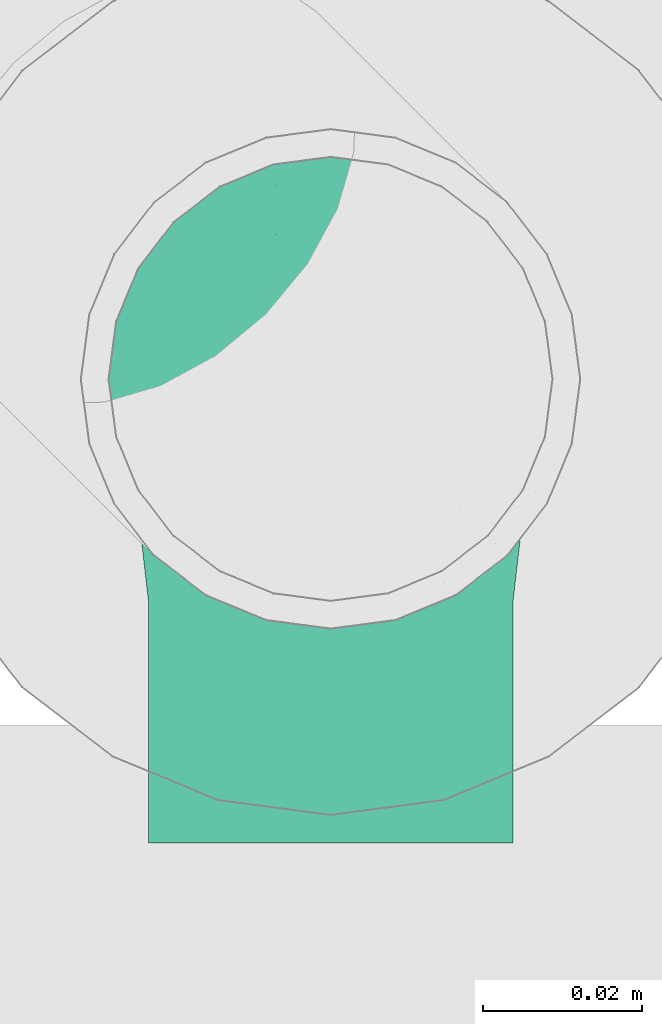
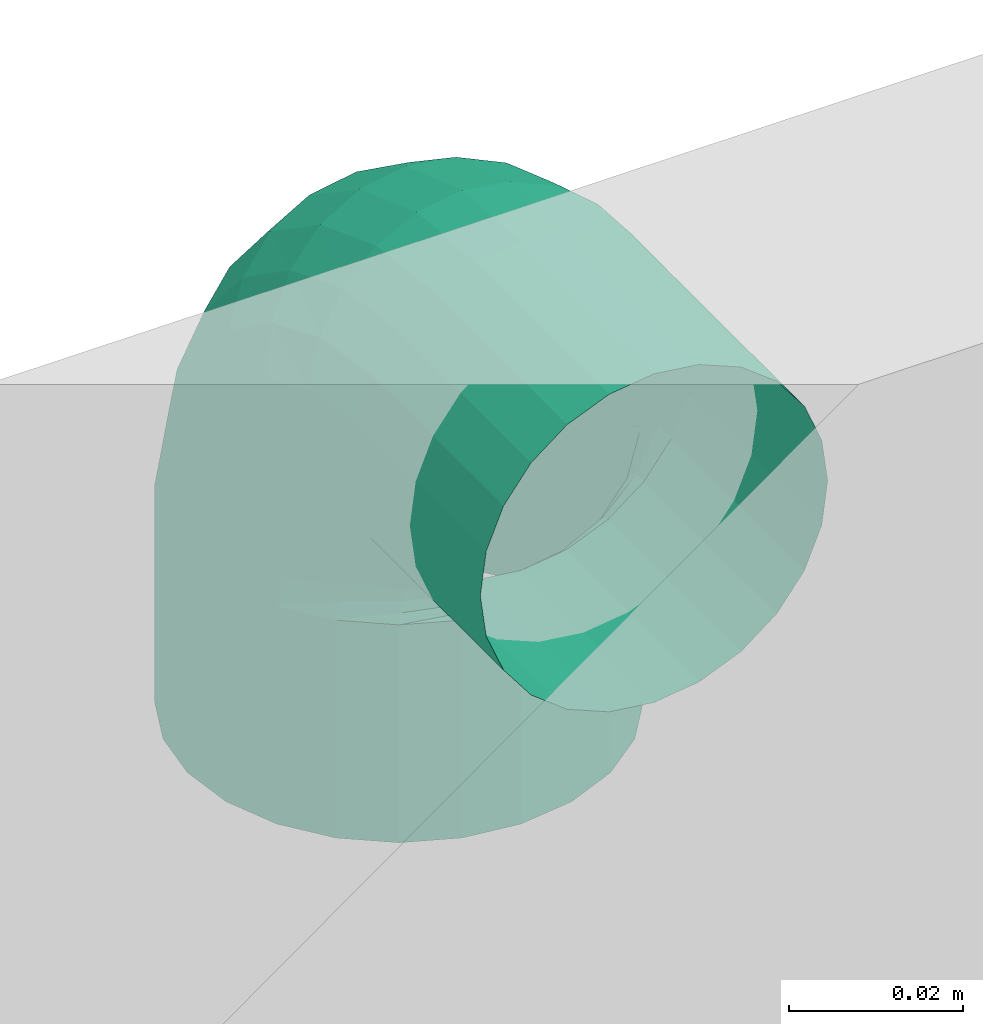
# One storey, part 124 of 374: 1 flow fitting.
"""IFC2X3 building model written with IfcOpenShell, lengths in metres."""

from ifc_helpers import new_model, si_unit, direction, origin, place, context, subcontext, project, spatial, open_shell, surface_model, source, transform, mapped, element, save


model = new_model("IFC2X3")

# Units and contexts
model_context = context("Model", 3, precision=1e-05, world=origin(), true_north=direction((-0.4480736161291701, 0.8939966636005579)))
body_context = subcontext(model_context, "Body", "Model", "MODEL_VIEW")
ifc_project = project(units=[si_unit("LENGTHUNIT", "METRE"), si_unit("AREAUNIT", "SQUARE_METRE"), si_unit("VOLUMEUNIT", "CUBIC_METRE"), si_unit("PLANEANGLEUNIT", "RADIAN"), si_unit("THERMODYNAMICTEMPERATUREUNIT", "KELVIN"), si_unit("MASSUNIT", "GRAM", prefix="KILO"), si_unit("TIMEUNIT", "SECOND")], contexts=[model_context])

# Site, building, storey
site_placement = place(None, origin())
site = spatial("IfcSite", under=ifc_project, at=site_placement, Name="Site 1", CompositionType="ELEMENT")
building_placement = place(site_placement, origin())
building = spatial("IfcBuilding", under=site, at=building_placement, Name="Undefined", CompositionType="ELEMENT")
storey_placement = place(building_placement, origin())
storey = spatial("IfcBuildingStorey", under=building, at=storey_placement, Name="Rez de chauss\x8ee", CompositionType="ELEMENT", Elevation=0.0)

# Flow fitting
shared_shape = source(origin(), body_context, "Body", "SurfaceModel", [
    surface_model("IfcFaceBasedSurfaceModel", [(0.0, 0.007309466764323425, 0.0), (0.0, 0.0, 0.0), (0.030500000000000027, 8.8817842e-16, 0.0), (0.030500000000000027, 0.007309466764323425, 0.0), (0.0, -0.007060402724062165, -0.0018918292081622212), (0.030500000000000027, -0.007060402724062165, -0.0018918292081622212), (0.0, -0.013390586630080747, -0.00554656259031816), (0.030500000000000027, -0.013390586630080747, -0.00554656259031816), (0.0, -0.018559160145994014, -0.010715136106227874), (0.030500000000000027, -0.018559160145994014, -0.010715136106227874), (0.0, -0.022213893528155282, -0.017045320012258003), (0.030500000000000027, -0.022213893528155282, -0.017045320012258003), (0.0, -0.02410572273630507, -0.02410572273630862), (0.030500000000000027, -0.02410572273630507, -0.02410572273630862), (0.0, -0.024105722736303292, -0.03141518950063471), (0.030500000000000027, -0.024105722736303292, -0.03141518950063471), (0.0, -0.022213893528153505, -0.03847559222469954), (0.030500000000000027, -0.022213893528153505, -0.03847559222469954), (0.0, -0.01855916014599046, -0.04480577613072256), (0.030500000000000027, -0.01855916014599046, -0.04480577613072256), (0.0, -0.01339058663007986, -0.04997434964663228), (0.030500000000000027, -0.01339058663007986, -0.04997434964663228), (0.0, -0.007060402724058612, -0.05362908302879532), (0.030500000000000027, -0.007060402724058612, -0.05362908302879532), (0.0, 2.664535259e-15, -0.05552091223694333), (0.030500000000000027, 2.664535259e-15, -0.05552091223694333), (0.0, 0.007309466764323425, -0.05552091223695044), (0.030500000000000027, 0.007309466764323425, -0.05552091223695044), (0.0, 0.014369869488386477, -0.053629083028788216), (0.030500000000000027, 0.014369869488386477, -0.053629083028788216), (0.0, 0.02070005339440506, -0.04997434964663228), (0.030500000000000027, 0.02070005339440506, -0.04997434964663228), (0.0, 0.025868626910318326, -0.04480577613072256), (0.030500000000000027, 0.025868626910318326, -0.04480577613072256), (0.0, 0.029523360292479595, -0.038475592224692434), (0.030500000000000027, 0.029523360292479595, -0.038475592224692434), (0.0, 0.03141518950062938, -0.031415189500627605), (0.030500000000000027, 0.03141518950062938, -0.031415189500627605), (0.0, 0.031415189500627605, -0.024105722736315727), (0.030500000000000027, 0.031415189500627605, -0.024105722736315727), (0.0, 0.029523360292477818, -0.017045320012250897), (0.030500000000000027, 0.029523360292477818, -0.017045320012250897), (0.0, 0.025868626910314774, -0.010715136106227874), (0.030500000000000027, 0.025868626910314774, -0.010715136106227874), (0.0, 0.020700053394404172, -0.00554656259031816), (0.030500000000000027, 0.020700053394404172, -0.00554656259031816), (0.0, 0.014369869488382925, -0.0018918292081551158), (0.030500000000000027, 0.014369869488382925, -0.0018918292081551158), (0.04453859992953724, -0.021447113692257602, -0.03154765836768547), (0.04477818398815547, -0.02141584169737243, -0.0244598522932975), (0.05721802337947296, -0.015355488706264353, -0.03213209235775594), (0.05766666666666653, -0.015236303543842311, -0.025273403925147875), (0.06771581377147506, -0.006343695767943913, -0.033100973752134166), (0.06833021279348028, -0.006091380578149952, -0.026477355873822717), (0.0753827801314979, 0.004890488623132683, -0.03436243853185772), (0.0761106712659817, 0.005307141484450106, -0.027977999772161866), (0.07978272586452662, 0.017517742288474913, -0.03580730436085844), (0.08056715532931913, 0.018114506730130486, -0.02966412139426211), (0.08071629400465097, 0.030638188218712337, -0.037317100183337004), (0.08150000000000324, 0.03141518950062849, -0.0314151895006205), (0.0438361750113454, -0.01970327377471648, -0.03838585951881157), (0.05590266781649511, -0.013925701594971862, -0.03872622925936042), (0.06591448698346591, -0.005360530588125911, -0.0394335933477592), (0.07324871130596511, 0.0053355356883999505, -0.04042149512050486), (0.07748289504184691, 0.017378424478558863, -0.04158670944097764), (0.07841858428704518, 0.029914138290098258, -0.0428168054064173), (0.04271877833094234, -0.0163031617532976, -0.04450844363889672), (0.053810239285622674, -0.011044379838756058, -0.04460643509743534), (0.0630489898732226, -0.0032088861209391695, -0.04504365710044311), (0.06985389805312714, 0.006611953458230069, -0.045742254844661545), (0.07382439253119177, 0.01770604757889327, -0.04660847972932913), (0.0747634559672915, 0.029292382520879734, -0.047539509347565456), (0.04126255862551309, -0.011478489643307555, -0.04949816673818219), (0.05108333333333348, -0.0069078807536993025, -0.04937198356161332), (0.059314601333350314, -3.539338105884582e-05, -0.049548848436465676), (0.0654296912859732, 0.008632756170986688, -0.049962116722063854), (0.06905653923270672, 0.018478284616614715, -0.05053038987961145), (0.07000000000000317, 0.02881529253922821, -0.05116336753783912), (0.03956675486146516, -0.0055580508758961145, -0.05301498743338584), (0.04790778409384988, -0.0017980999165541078, -0.05269811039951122), (0.054965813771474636, 0.003943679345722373, -0.0526421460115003), (0.06027759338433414, 0.01126022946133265, -0.05279350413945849), (0.06350425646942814, 0.01964250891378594, -0.053085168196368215), (0.0644528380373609, 0.0285153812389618, -0.053441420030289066), (0.03774693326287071, 0.0010546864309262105, -0.05481924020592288), (0.04450000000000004, 0.003936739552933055, -0.05435814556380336), (0.050298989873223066, 0.008457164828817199, -0.054112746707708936), (0.054748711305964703, 0.014315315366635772, -0.05404346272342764), (0.05754592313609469, 0.021119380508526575, -0.054098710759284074), (0.05850000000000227, 0.028413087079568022, -0.05421842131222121), (0.03592711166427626, 0.007909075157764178, -0.05478796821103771), (0.041092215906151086, 0.009905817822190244, -0.05423896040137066), (0.04563216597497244, 0.01319747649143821, -0.05386043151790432), (0.04921982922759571, 0.017589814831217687, -0.053626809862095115), (0.05158758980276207, 0.022808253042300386, -0.05350194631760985), (0.05254716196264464, 0.0285153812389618, -0.053441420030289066), (0.03423130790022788, 0.014538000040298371, -0.05292330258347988), (0.03791666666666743, 0.01570235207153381, -0.05234867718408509), (0.04128337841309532, 0.017841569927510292, -0.05190239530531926), (0.04406773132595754, 0.020860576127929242, -0.05157193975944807), (0.0460353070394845, 0.024594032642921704, -0.051335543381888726), (0.047000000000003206, 0.02881529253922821, -0.05116336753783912), (0.03277508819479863, 0.020489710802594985, -0.04935231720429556), (0.03518976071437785, 0.020931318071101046, -0.048816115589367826), (0.03754898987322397, 0.022072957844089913, -0.04837207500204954), (0.03964352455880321, 0.023904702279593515, -0.048018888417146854), (0.04126745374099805, 0.02635502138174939, -0.04774713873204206), (0.0422365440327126, 0.029292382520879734, -0.047539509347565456), (0.031657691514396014, 0.025358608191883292, -0.044318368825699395), (0.03309733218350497, 0.025236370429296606, -0.043882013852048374), (0.03468349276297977, 0.02560327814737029, -0.04351005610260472), (0.03624871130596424, 0.026514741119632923, -0.04320979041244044), (0.03760895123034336, 0.02797121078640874, -0.0429812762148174), (0.038581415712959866, 0.029914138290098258, -0.0428168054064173), (0.030955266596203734, 0.02881288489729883, -0.038164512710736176), (0.03178197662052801, 0.02832412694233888, -0.037882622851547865), (0.03288216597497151, 0.02819194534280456, -0.037647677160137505), (0.034114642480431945, 0.028512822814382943, -0.03747237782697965), (0.03530912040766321, 0.02933246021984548, -0.037362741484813), (0.03628370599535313, 0.030638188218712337, -0.037317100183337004), (0.030715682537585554, 0.0306171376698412, -0.031310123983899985), (0.031333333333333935, 0.02998416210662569, -0.031226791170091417), (0.03226776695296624, 0.02966254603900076, -0.03118444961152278), (0.03338675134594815, 0.029762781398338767, -0.031197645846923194), (0.03452469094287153, 0.030346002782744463, -0.03127442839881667), (0.035500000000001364, 0.03141518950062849, -0.0314151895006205), (0.030955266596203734, 0.030648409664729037, -0.024222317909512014), (0.03178197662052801, 0.030103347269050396, -0.024368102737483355), (0.03288216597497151, 0.029914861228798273, -0.02456083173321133), (0.034114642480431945, 0.030179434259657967, -0.02481320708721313), (0.03530912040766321, 0.030942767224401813, -0.02513124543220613), (0.03628370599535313, 0.03219219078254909, -0.025513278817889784), (0.031657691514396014, 0.028904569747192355, -0.01738411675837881), (0.03309733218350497, 0.02867356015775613, -0.017773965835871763), (0.03468349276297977, 0.028931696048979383, -0.01822821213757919), (0.03624871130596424, 0.0297343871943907, -0.018754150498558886), (0.03760895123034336, 0.031082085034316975, -0.019351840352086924), (0.038581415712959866, 0.03291624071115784, -0.02001357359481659), (0.03277508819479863, 0.025504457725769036, -0.01126153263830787), (0.03518976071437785, 0.025792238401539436, -0.011893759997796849), (0.03754898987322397, 0.02678005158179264, -0.012618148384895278), (0.03964352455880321, 0.02845796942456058, -0.013433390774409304), (0.04126745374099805, 0.030754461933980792, -0.014330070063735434), (0.0422365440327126, 0.033537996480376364, -0.015290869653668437), (0.03423130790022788, 0.020679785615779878, -0.006271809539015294), (0.03791666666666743, 0.021655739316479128, -0.007128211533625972), (0.04128337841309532, 0.023606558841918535, -0.00811295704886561), (0.04406773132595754, 0.02643716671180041, -0.00921352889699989), (0.0460353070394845, 0.02998222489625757, -0.010408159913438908), (0.047000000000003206, 0.034015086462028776, -0.011667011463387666), (0.03592711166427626, 0.01475934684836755, -0.002754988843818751), (0.041092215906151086, 0.016545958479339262, -0.0038020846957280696), (0.04563216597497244, 0.019627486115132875, -0.0050196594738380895), (0.04921982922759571, 0.023809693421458, -0.006382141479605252), (0.05158758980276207, 0.028818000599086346, -0.007853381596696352), (0.05254716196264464, 0.0343149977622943, -0.009388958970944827), (0.03774693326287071, 0.008146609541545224, -0.0009507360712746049), (0.04450000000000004, 0.010811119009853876, -0.00214204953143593), (0.050298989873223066, 0.01511400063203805, -0.0035490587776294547), (0.054748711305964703, 0.020754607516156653, -0.005132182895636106), (0.05754592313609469, 0.027341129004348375, -0.006839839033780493), (0.05850000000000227, 0.034417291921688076, -0.008611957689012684), (0.03956675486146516, 0.0012922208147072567, -0.000982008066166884), (0.04790778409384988, 0.004842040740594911, -0.00226123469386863), (0.054965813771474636, 0.010373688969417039, -0.003801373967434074), (0.06027759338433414, 0.017480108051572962, -0.005548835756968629), (0.06350425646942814, 0.0256522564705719, -0.007436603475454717), (0.0644528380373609, 0.0343149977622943, -0.009388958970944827), (0.04126255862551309, -0.005336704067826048, -0.002846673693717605), (0.05108333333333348, -0.0009544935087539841, -0.004151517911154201), (0.0593146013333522, 0.0057295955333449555, -0.005759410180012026), (0.0654296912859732, 0.014209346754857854, -0.007603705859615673), (0.06905653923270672, 0.02386647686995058, -0.00960300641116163), (0.07000000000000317, 0.034015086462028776, -0.011667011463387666), (0.04271877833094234, -0.01128841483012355, -0.006417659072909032), (0.053810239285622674, -0.006183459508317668, -0.007684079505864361), (0.0630489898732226, 0.0014982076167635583, -0.00928973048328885), (0.06985389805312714, 0.011165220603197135, -0.0111567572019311), (0.07382439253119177, 0.022105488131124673, -0.013191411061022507), (0.0747634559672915, 0.033537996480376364, -0.015290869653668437), (0.0438361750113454, -0.016157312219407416, -0.011451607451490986), (0.05590266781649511, -0.01048851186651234, -0.012618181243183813), (0.06591448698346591, -0.002032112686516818, -0.01415174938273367), (0.07324871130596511, 0.008555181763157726, -0.015965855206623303), (0.07748289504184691, 0.020489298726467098, -0.017957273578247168), (0.07841858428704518, 0.03291624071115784, -0.02001357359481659), (0.04453859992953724, -0.019611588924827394, -0.01760546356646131), (0.05721802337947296, -0.013576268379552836, -0.018617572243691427), (0.06771581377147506, -0.004620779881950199, -0.02001412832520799), (0.0753827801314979, 0.006557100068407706, -0.021703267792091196), (0.07978272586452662, 0.019128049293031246, -0.023575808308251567), (0.08071629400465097, 0.03219219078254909, -0.025513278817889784), (0.08071629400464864, 0.0608772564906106, -0.041298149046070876), (0.08150000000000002, 0.06165425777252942, -0.03539623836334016), (0.07841858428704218, 0.060153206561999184, -0.04679785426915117), (0.07476345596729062, 0.05953145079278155, -0.05152055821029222), (0.07000000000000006, 0.05905436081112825, -0.0551444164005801), (0.06445283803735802, 0.05875444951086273, -0.05742246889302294), (0.058499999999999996, 0.05865215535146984, -0.058199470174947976), (0.05254716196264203, 0.05875444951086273, -0.05742246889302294), (0.04700000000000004, 0.05905436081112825, -0.0551444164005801), (0.04223654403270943, 0.05953145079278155, -0.05152055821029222), (0.03858141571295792, 0.060153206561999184, -0.04679785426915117), (0.03628370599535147, 0.0608772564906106, -0.041298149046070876), (0.03550000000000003, 0.06165425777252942, -0.03539623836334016), (0.03628370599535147, 0.06243125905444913, -0.02949432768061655), (0.03858141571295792, 0.06315530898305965, -0.023994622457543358), (0.04223654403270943, 0.06377706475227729, -0.01927191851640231), (0.04700000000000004, 0.06425415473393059, -0.015648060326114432), (0.05254716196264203, 0.06455406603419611, -0.013370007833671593), (0.058499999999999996, 0.064656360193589, -0.012593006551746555), (0.06445283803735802, 0.06455406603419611, -0.013370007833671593), (0.07000000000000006, 0.06425415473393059, -0.015648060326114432), (0.07476345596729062, 0.06377706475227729, -0.01927191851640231), (0.07841858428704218, 0.06315530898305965, -0.023994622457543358), (0.08071629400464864, 0.06243125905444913, -0.02949432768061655)], [open_shell([[[0, 1, 2, 3]], [[1, 4, 5, 2]], [[4, 6, 7, 5]], [[6, 8, 9, 7]], [[8, 10, 11, 9]], [[10, 12, 13, 11]], [[12, 14, 15, 13]], [[14, 16, 17, 15]], [[16, 18, 19, 17]], [[18, 20, 21, 19]], [[20, 22, 23, 21]], [[22, 24, 25, 23]], [[24, 26, 27, 25]], [[26, 28, 29, 27]], [[28, 30, 31, 29]], [[30, 32, 33, 31]], [[32, 34, 35, 33]], [[34, 36, 37, 35]], [[36, 38, 39, 37]], [[38, 40, 41, 39]], [[40, 42, 43, 41]], [[42, 44, 45, 43]], [[44, 46, 47, 45]], [[46, 0, 3, 47]], [[13, 15, 48]], [[48, 49, 13]], [[49, 48, 50]], [[50, 51, 49]], [[51, 50, 52]], [[52, 53, 51]], [[53, 52, 54]], [[54, 55, 53]], [[55, 54, 56]], [[56, 57, 55]], [[57, 56, 58]], [[58, 59, 57]], [[15, 17, 60]], [[60, 48, 15]], [[48, 60, 61]], [[61, 50, 48]], [[50, 61, 62]], [[62, 52, 50]], [[52, 62, 63]], [[63, 54, 52]], [[54, 63, 64]], [[64, 56, 54]], [[56, 64, 65]], [[65, 58, 56]], [[17, 19, 66]], [[66, 60, 17]], [[60, 66, 67]], [[67, 61, 60]], [[61, 67, 68]], [[68, 62, 61]], [[62, 68, 69]], [[69, 63, 62]], [[63, 69, 70]], [[70, 64, 63]], [[64, 70, 71]], [[71, 65, 64]], [[19, 21, 72]], [[72, 66, 19]], [[66, 72, 73]], [[73, 67, 66]], [[67, 73, 74]], [[74, 68, 67]], [[68, 74, 75]], [[75, 69, 68]], [[69, 75, 76]], [[76, 70, 69]], [[70, 76, 77]], [[77, 71, 70]], [[21, 23, 78]], [[78, 72, 21]], [[72, 78, 79]], [[79, 73, 72]], [[73, 79, 80]], [[80, 74, 73]], [[74, 80, 81]], [[81, 75, 74]], [[75, 81, 82]], [[82, 76, 75]], [[76, 82, 83]], [[83, 77, 76]], [[23, 25, 84]], [[84, 78, 23]], [[78, 84, 85]], [[85, 79, 78]], [[79, 85, 86]], [[86, 80, 79]], [[80, 86, 87]], [[87, 81, 80]], [[81, 87, 88]], [[88, 82, 81]], [[82, 88, 89]], [[89, 83, 82]], [[25, 27, 90]], [[90, 84, 25]], [[84, 90, 91]], [[91, 85, 84]], [[85, 91, 92]], [[92, 86, 85]], [[86, 92, 93]], [[93, 87, 86]], [[87, 93, 94]], [[94, 88, 87]], [[88, 94, 95]], [[95, 89, 88]], [[27, 29, 96]], [[96, 90, 27]], [[90, 96, 97]], [[97, 91, 90]], [[91, 97, 98]], [[98, 92, 91]], [[92, 98, 99]], [[99, 93, 92]], [[93, 99, 100]], [[100, 94, 93]], [[94, 100, 101]], [[101, 95, 94]], [[29, 31, 102]], [[102, 96, 29]], [[96, 102, 103]], [[103, 97, 96]], [[97, 103, 104]], [[104, 98, 97]], [[98, 104, 105]], [[105, 99, 98]], [[99, 105, 106]], [[106, 100, 99]], [[100, 106, 107]], [[107, 101, 100]], [[31, 33, 108]], [[108, 102, 31]], [[102, 108, 109]], [[109, 103, 102]], [[103, 109, 110]], [[110, 104, 103]], [[104, 110, 111]], [[111, 105, 104]], [[105, 111, 112]], [[112, 106, 105]], [[106, 112, 113]], [[113, 107, 106]], [[33, 35, 114]], [[114, 108, 33]], [[108, 114, 115]], [[115, 109, 108]], [[109, 115, 116]], [[116, 110, 109]], [[110, 116, 117]], [[117, 111, 110]], [[111, 117, 118]], [[118, 112, 111]], [[112, 118, 119]], [[119, 113, 112]], [[35, 37, 120]], [[120, 114, 35]], [[114, 120, 121]], [[121, 115, 114]], [[115, 121, 122]], [[122, 116, 115]], [[116, 122, 123]], [[123, 117, 116]], [[117, 123, 124]], [[124, 118, 117]], [[118, 124, 125]], [[125, 119, 118]], [[37, 39, 126]], [[126, 120, 37]], [[120, 126, 127]], [[127, 121, 120]], [[121, 127, 128]], [[128, 122, 121]], [[122, 128, 129]], [[129, 123, 122]], [[123, 129, 130]], [[130, 124, 123]], [[124, 130, 131]], [[131, 125, 124]], [[39, 41, 132]], [[132, 126, 39]], [[126, 132, 133]], [[133, 127, 126]], [[127, 133, 134]], [[134, 128, 127]], [[128, 134, 135]], [[135, 129, 128]], [[129, 135, 136]], [[136, 130, 129]], [[130, 136, 137]], [[137, 131, 130]], [[41, 43, 138]], [[138, 132, 41]], [[132, 138, 139]], [[139, 133, 132]], [[133, 139, 140]], [[140, 134, 133]], [[134, 140, 141]], [[141, 135, 134]], [[135, 141, 142]], [[142, 136, 135]], [[136, 142, 143]], [[143, 137, 136]], [[43, 45, 144]], [[144, 138, 43]], [[138, 144, 145]], [[145, 139, 138]], [[139, 145, 146]], [[146, 140, 139]], [[140, 146, 147]], [[147, 141, 140]], [[141, 147, 148]], [[148, 142, 141]], [[142, 148, 149]], [[149, 143, 142]], [[45, 47, 150]], [[150, 144, 45]], [[144, 150, 151]], [[151, 145, 144]], [[145, 151, 152]], [[152, 146, 145]], [[146, 152, 153]], [[153, 147, 146]], [[147, 153, 154]], [[154, 148, 147]], [[148, 154, 155]], [[155, 149, 148]], [[47, 3, 156]], [[156, 150, 47]], [[150, 156, 157]], [[157, 151, 150]], [[151, 157, 158]], [[158, 152, 151]], [[152, 158, 159]], [[159, 153, 152]], [[153, 159, 160]], [[160, 154, 153]], [[154, 160, 161]], [[161, 155, 154]], [[3, 2, 162]], [[162, 156, 3]], [[156, 162, 163]], [[163, 157, 156]], [[157, 163, 164]], [[164, 158, 157]], [[158, 164, 165]], [[165, 159, 158]], [[159, 165, 166]], [[166, 160, 159]], [[160, 166, 167]], [[167, 161, 160]], [[2, 5, 168]], [[168, 162, 2]], [[162, 168, 169]], [[169, 163, 162]], [[163, 169, 170]], [[170, 164, 163]], [[164, 170, 171]], [[171, 165, 164]], [[165, 171, 172]], [[172, 166, 165]], [[166, 172, 173]], [[173, 167, 166]], [[5, 7, 174]], [[174, 168, 5]], [[168, 174, 175]], [[175, 169, 168]], [[169, 175, 176]], [[176, 170, 169]], [[170, 176, 177]], [[177, 171, 170]], [[171, 177, 178]], [[178, 172, 171]], [[172, 178, 179]], [[179, 173, 172]], [[7, 9, 180]], [[180, 174, 7]], [[174, 180, 181]], [[181, 175, 174]], [[175, 181, 182]], [[182, 176, 175]], [[176, 182, 183]], [[183, 177, 176]], [[177, 183, 184]], [[184, 178, 177]], [[178, 184, 185]], [[185, 179, 178]], [[9, 11, 186]], [[186, 180, 9]], [[180, 186, 187]], [[187, 181, 180]], [[181, 187, 188]], [[188, 182, 181]], [[182, 188, 189]], [[189, 183, 182]], [[183, 189, 190]], [[190, 184, 183]], [[184, 190, 191]], [[191, 185, 184]], [[11, 13, 49]], [[49, 186, 11]], [[186, 49, 51]], [[51, 187, 186]], [[187, 51, 53]], [[53, 188, 187]], [[188, 53, 55]], [[55, 189, 188]], [[189, 55, 57]], [[57, 190, 189]], [[190, 57, 59]], [[59, 191, 190]], [[59, 58, 192, 193]], [[58, 65, 194, 192]], [[65, 71, 195, 194]], [[71, 77, 196, 195]], [[77, 83, 197, 196]], [[83, 89, 198, 197]], [[89, 95, 199, 198]], [[95, 101, 200, 199]], [[101, 107, 201, 200]], [[107, 113, 202, 201]], [[113, 119, 203, 202]], [[119, 125, 204, 203]], [[125, 131, 205, 204]], [[131, 137, 206, 205]], [[137, 143, 207, 206]], [[143, 149, 208, 207]], [[149, 155, 209, 208]], [[155, 161, 210, 209]], [[161, 167, 211, 210]], [[167, 173, 212, 211]], [[173, 179, 213, 212]], [[179, 185, 214, 213]], [[185, 191, 215, 214]], [[191, 59, 193, 215]]])]),
])
flow_fitting_placement = place(storey_placement, origin())
element("IfcFlowFitting", 1, at=flow_fitting_placement, inside=storey, Name="PE-HD équerre avec mamachon de raccordement pour siphon", ObjectType="PE-HD équerre avec mamachon de raccordement pour siphon", context=body_context, shape_type="MappedRepresentation", body=[
    mapped(shared_shape, transform((58.60205345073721, 11.993958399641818, 0.4410518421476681), x_axis=(0.0, 0.0, 1.0), y_axis=(0.13052619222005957, -0.9914448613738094, 0.0), z_axis=(0.9914448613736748, 0.13052619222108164, 0.0))),
])

save(model, "model.ifc")
